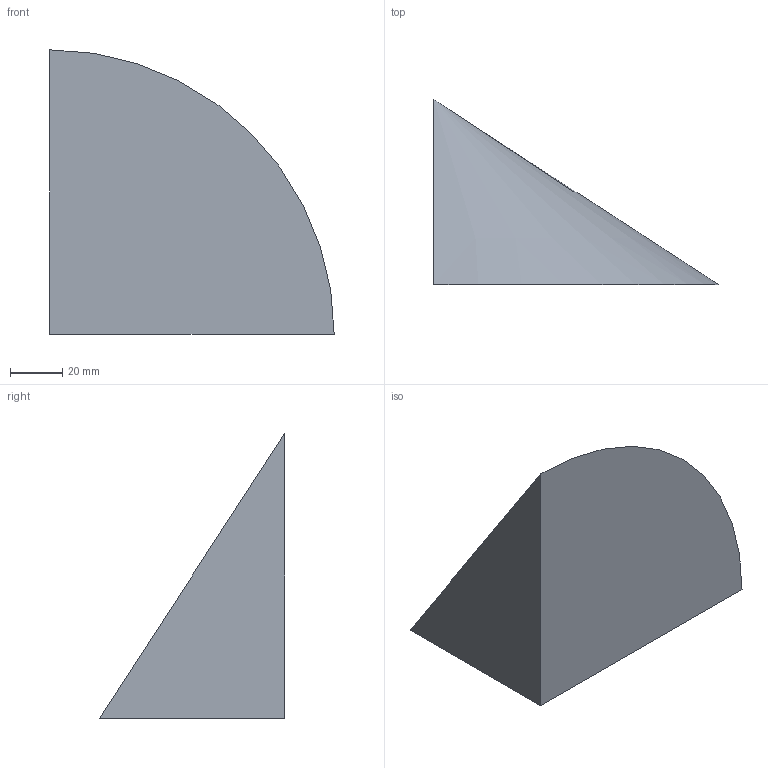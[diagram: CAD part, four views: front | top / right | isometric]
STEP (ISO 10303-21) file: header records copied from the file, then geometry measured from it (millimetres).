
FILE_DESCRIPTION(('CATIA V5 STEP Exchange'),'2;1');
FILE_NAME('C:\_Andres\UNIVERSIDAD\IQS\ASIGNATURAS\DAO\EXF\EXF-16172c\2inicio\Domeque_Sanz_Ej07_v9.stp','2017-03-05T21:18:11+00:00',('none'),('none'),'CATIA Version 5-6 Release 2014 SP1 HF18','CATIA V5 STEP AP203','none');
FILE_SCHEMA(('CONFIG_CONTROL_DESIGN'));
Length unit declared in the file: millimetre
Products named in the file (1): Domeque_Sanz_Ej07_v9
Bounding box: 109 x 71 x 109 mm (x, y, z)
Volume: 220841.1 mm3; surface area: 28206.6 mm2
Topology: 1 solids, 1 shells, 4 faces, 7 edges, 4 vertices
Faces by surface type: plane 3, cone 1
Entity records: 131 total; most frequent: CARTESIAN_POINT 15, DIRECTION 14, ORIENTED_EDGE 12, AXIS2_PLACEMENT_3D 6, EDGE_CURVE 6, VECTOR 5, LINE 5, ADVANCED_FACE 4
